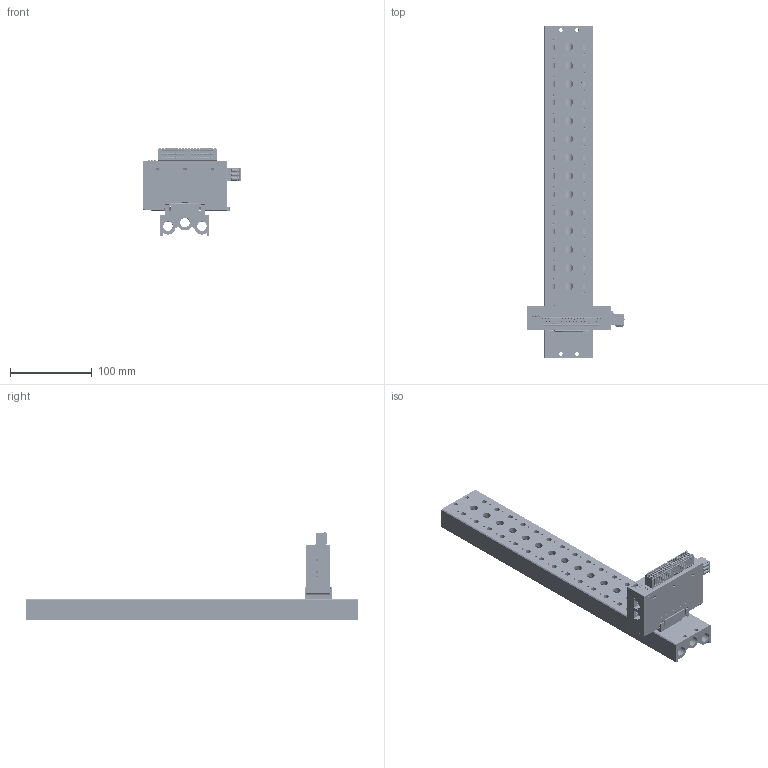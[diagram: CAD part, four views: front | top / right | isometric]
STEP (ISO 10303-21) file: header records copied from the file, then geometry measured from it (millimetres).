
FILE_DESCRIPTION(/* description */ (''),/* implementation_level */ '2;1');
FILE_NAME(/* name */ '',/* time_stamp */ '2025-10-09T16:11:31+08:00',/* author */ (''),/* organization */ (''),/* preprocessor_version */ 'ST-DEVELOPER v14',/* originating_system */ 'SIEMENS PLM Software NX 8.0',/* authorisation */ '');
FILE_SCHEMA (('AP203_CONFIGURATION_CONTROLLED_3D_DESIGN_OF_MECHANICAL_PARTS_AND_ASSEMBLIES_MIM_LF { 1 0 10303 403 2 1 2}'));
Products named in the file (1): DELL3E5857E9ucgc
Bounding box: 119.8 x 406 x 108.48 mm (x, y, z)
Volume: 569781.7 mm3; surface area: 186297.3 mm2
Topology: 2 solids, 228 shells, 10002 faces, 26521 edges, 17273 vertices
Faces by surface type: plane 6504, cylinder 2305, bspline 338, torus 336, cone 243, extrusion 181, sphere 95
Full cylindrical faces by diameter (mm): 0.18 x2, 2.5 x33, 3.05 x40, 3.3 x3, 3.5 x4, 4 x4, 4.5 x4, 6 x4, 6.5 x28, 9.6 x1, 10 x14, 11.492 x1, 11.5 x3, 11.8 x6
Entity records: 330376 total; most frequent: CARTESIAN_POINT 84771, ORIENTED_EDGE 51762, DIRECTION 48825, EDGE_CURVE 25881, VECTOR 18401, LINE 18220, VERTEX_POINT 17104, AXIS2_PLACEMENT_3D 15212
